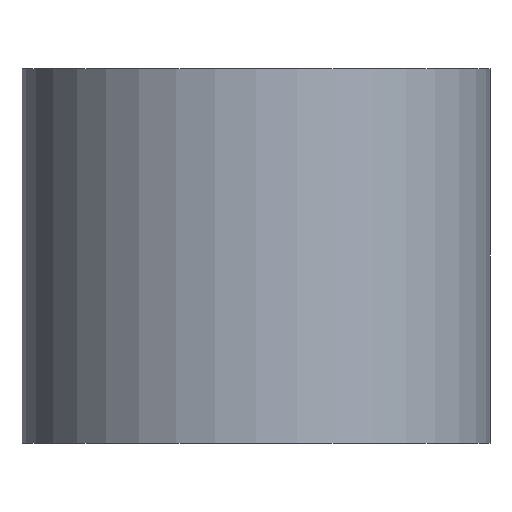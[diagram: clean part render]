
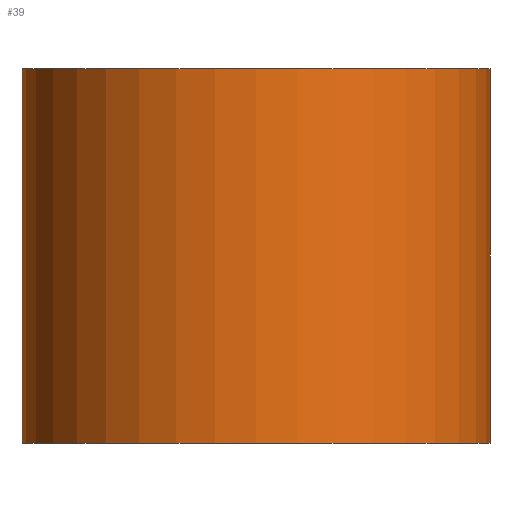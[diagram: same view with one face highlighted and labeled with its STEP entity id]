
A CAD part, front view. The second image highlights one B-rep face of the part: STEP entity #39.
In plain terms, the highlighted cylindrical face has radius 12.5 mm (diameter 25 mm), a full revolution.
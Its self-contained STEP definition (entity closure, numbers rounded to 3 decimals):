
#17=FACE_OUTER_BOUND('',#20,.T.);
#20=EDGE_LOOP('',(#32,#33,#34,#35));
#23=LINE('',#79,#24);
#24=VECTOR('',#67,12.5);
#25=CIRCLE('',#57,12.5);
#26=CIRCLE('',#58,12.5);
#27=VERTEX_POINT('',#76);
#28=VERTEX_POINT('',#78);
#29=EDGE_CURVE('',#27,#27,#25,.T.);
#30=EDGE_CURVE('',#27,#28,#23,.T.);
#31=EDGE_CURVE('',#28,#28,#26,.T.);
#32=ORIENTED_EDGE('',*,*,#29,.F.);
#33=ORIENTED_EDGE('',*,*,#30,.T.);
#34=ORIENTED_EDGE('',*,*,#31,.F.);
#35=ORIENTED_EDGE('',*,*,#30,.F.);
#38=CYLINDRICAL_SURFACE('',#56,12.5);
#39=ADVANCED_FACE('',(#17),#38,.T.);
#56=AXIS2_PLACEMENT_3D('',#75,#63,#64);
#57=AXIS2_PLACEMENT_3D('',#77,#65,#66);
#58=AXIS2_PLACEMENT_3D('',#80,#68,#69);
#63=DIRECTION('center_axis',(0.,0.,1.));
#64=DIRECTION('ref_axis',(1.,0.,0.));
#65=DIRECTION('center_axis',(0.,0.,1.));
#66=DIRECTION('ref_axis',(1.,0.,0.));
#67=DIRECTION('',(0.,0.,-1.));
#68=DIRECTION('center_axis',(0.,0.,-1.));
#69=DIRECTION('ref_axis',(1.,0.,0.));
#75=CARTESIAN_POINT('Origin',(90.,65.,180.));
#76=CARTESIAN_POINT('',(77.5,65.,190.));
#77=CARTESIAN_POINT('Origin',(90.,65.,190.));
#78=CARTESIAN_POINT('',(77.5,65.,170.));
#79=CARTESIAN_POINT('',(77.5,65.,180.));
#80=CARTESIAN_POINT('Origin',(90.,65.,170.));
